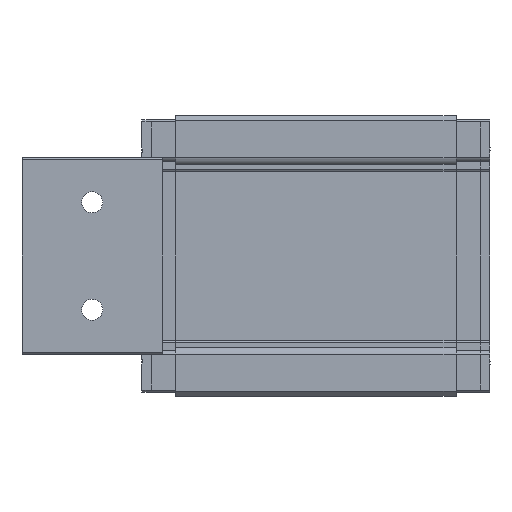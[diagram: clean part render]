
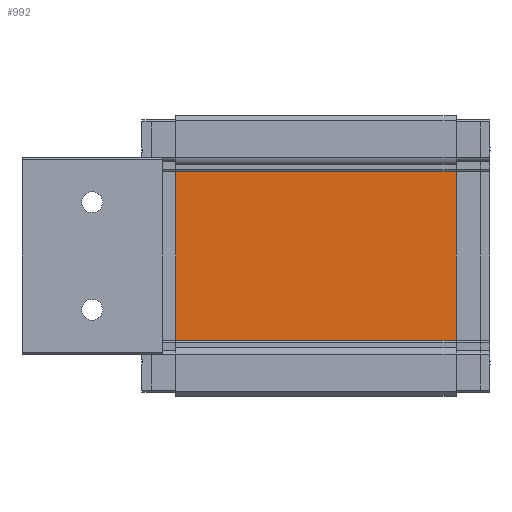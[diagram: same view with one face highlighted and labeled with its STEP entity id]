
A CAD part, front view. The second image highlights one B-rep face of the part: STEP entity #992.
In plain terms, the highlighted planar face has unit normal (0, -1, 0).
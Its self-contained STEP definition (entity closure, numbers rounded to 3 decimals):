
#992 = ADVANCED_FACE( '', ( #2031 ), #2032, .T. );
#2031 = FACE_OUTER_BOUND( '', #3162, .T. );
#2032 = PLANE( '', #3163 );
#3162 = EDGE_LOOP( '', ( #5778, #5779, #5780, #5781 ) );
#3163 = AXIS2_PLACEMENT_3D( '', #5782, #5783, #5784 );
#5778 = ORIENTED_EDGE( '', *, *, #7112, .F. );
#5779 = ORIENTED_EDGE( '', *, *, #7427, .F. );
#5780 = ORIENTED_EDGE( '', *, *, #6866, .T. );
#5781 = ORIENTED_EDGE( '', *, *, #7815, .T. );
#5782 = CARTESIAN_POINT( '', ( 30., 6.1, -20.55 ) );
#5783 = DIRECTION( '', ( 0., -1., 0. ) );
#5784 = DIRECTION( '', ( 0., 0., -1. ) );
#6866 = EDGE_CURVE( '', #8211, #8209, #8212, .T. );
#7112 = EDGE_CURVE( '', #8641, #8643, #8644, .T. );
#7427 = EDGE_CURVE( '', #8211, #8641, #9159, .T. );
#7815 = EDGE_CURVE( '', #8209, #8643, #9696, .T. );
#8209 = VERTEX_POINT( '', #10177 );
#8211 = VERTEX_POINT( '', #10180 );
#8212 = LINE( '', #10181, #10182 );
#8641 = VERTEX_POINT( '', #10770 );
#8643 = VERTEX_POINT( '', #10773 );
#8644 = LINE( '', #10774, #10775 );
#9159 = LINE( '', #11495, #11496 );
#9696 = LINE( '', #12276, #12277 );
#10177 = CARTESIAN_POINT( '', ( 30., 6.1, 20.55 ) );
#10180 = CARTESIAN_POINT( '', ( 30., 6.1, -20.55 ) );
#10181 = CARTESIAN_POINT( '', ( 30., 6.1, -20.55 ) );
#10182 = VECTOR( '', #12812, 1000. );
#10770 = CARTESIAN_POINT( '', ( -30., 6.1, -20.55 ) );
#10773 = CARTESIAN_POINT( '', ( -30., 6.1, 20.55 ) );
#10774 = CARTESIAN_POINT( '', ( -30., 6.1, -20.55 ) );
#10775 = VECTOR( '', #13087, 1000. );
#11495 = CARTESIAN_POINT( '', ( 30., 6.1, -20.55 ) );
#11496 = VECTOR( '', #13462, 1000. );
#12276 = CARTESIAN_POINT( '', ( 30., 6.1, 20.55 ) );
#12277 = VECTOR( '', #13814, 1000. );
#12812 = DIRECTION( '', ( 0., 0., 1. ) );
#13087 = DIRECTION( '', ( 0., 0., 1. ) );
#13462 = DIRECTION( '', ( -1., 0., 0. ) );
#13814 = DIRECTION( '', ( -1., 0., 0. ) );
